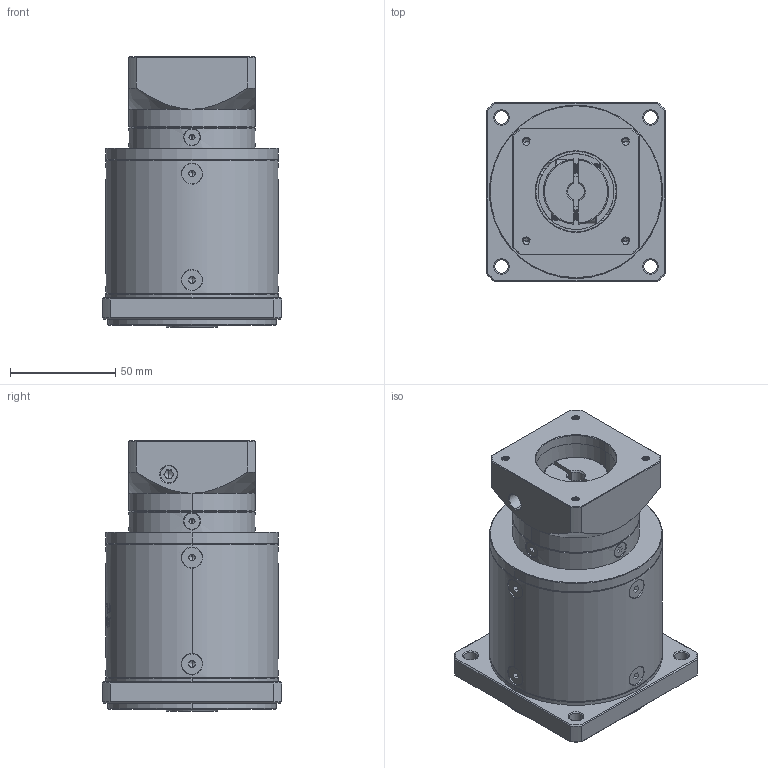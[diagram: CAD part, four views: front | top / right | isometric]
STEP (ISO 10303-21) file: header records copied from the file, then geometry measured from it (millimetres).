
FILE_DESCRIPTION (( 'STEP AP214' ), '1' );
FILE_NAME ('ZF080-K15-L3-P2-8-38.1-47.14X47.14-M4.step', '2023-08-19T07:01:31', ( '' ), ( '' ), 'SwSTEP 2.0', 'SolidWorks 2016', '' );
FILE_SCHEMA (( 'AUTOMOTIVE_DESIGN' ));
Length unit declared in the file: millimetre
Products named in the file (1): ZF080-K15-L3-P2-8-38.1-47.14X47.14-M4
Bounding box: 85 x 85 x 128.5 mm (x, y, z)
Volume: 560133.2 mm3; surface area: 71391.1 mm2
Topology: 18 solids, 18 shells, 2231 faces, 5891 edges, 3760 vertices
Faces by surface type: plane 1118, bspline 390, cylinder 369, cone 314, torus 40
Entity records: 114709 total; most frequent: CARTESIAN_POINT 39734, ORIENTED_EDGE 11710, DIRECTION 8786, EDGE_CURVE 5855, VERTEX_POINT 3760, VECTOR 3112, LINE 3112, AXIS2_PLACEMENT_3D 2837
